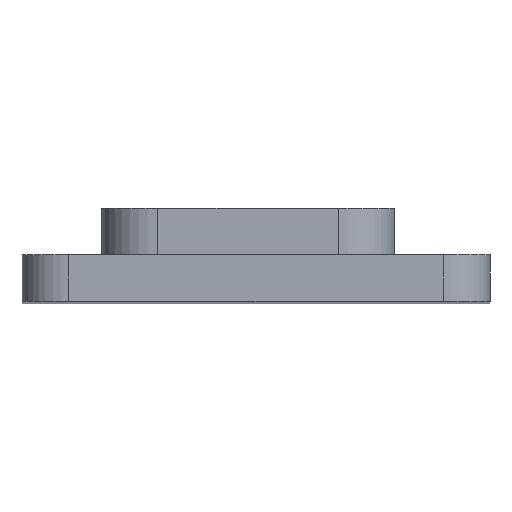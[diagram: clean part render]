
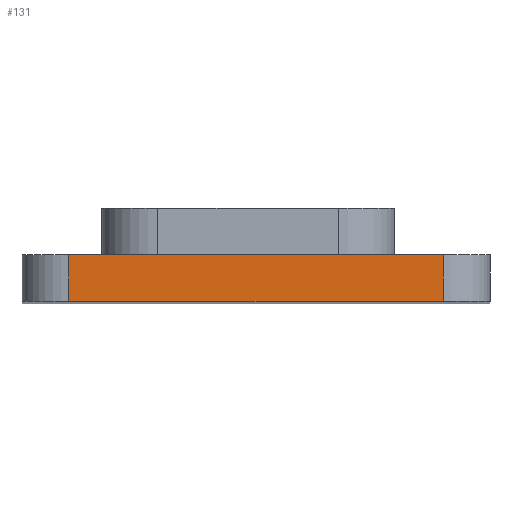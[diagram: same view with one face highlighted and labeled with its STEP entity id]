
A CAD part, top view. The second image highlights one B-rep face of the part: STEP entity #131.
In plain terms, the highlighted planar face has unit normal (0, 0, 1).
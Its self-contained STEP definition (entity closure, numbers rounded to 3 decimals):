
#29 = CARTESIAN_POINT ( 'NONE',  ( 20., 5., 75. ) ) ;
#56 = LINE ( 'NONE', #1261, #1043 ) ;
#75 = LINE ( 'NONE', #1373, #202 ) ;
#131 = ADVANCED_FACE ( 'NONE', ( #1206 ), #354, .F. ) ;
#140 = CARTESIAN_POINT ( 'NONE',  ( -20., 5., 75. ) ) ;
#150 = CARTESIAN_POINT ( 'NONE',  ( -20., 5., 75. ) ) ;
#163 = DIRECTION ( 'NONE',  ( 0., -1., 0. ) ) ;
#192 = CARTESIAN_POINT ( 'NONE',  ( 20., 0., 75. ) ) ;
#202 = VECTOR ( 'NONE', #163, 1000. ) ;
#205 = EDGE_CURVE ( 'NONE', #879, #1249, #56, .T. ) ;
#239 = DIRECTION ( 'NONE',  ( 0., 0., -1. ) ) ;
#350 = LINE ( 'NONE', #29, #771 ) ;
#354 = PLANE ( 'NONE',  #1020 ) ;
#419 = ORIENTED_EDGE ( 'NONE', *, *, #1398, .F. ) ;
#420 = DIRECTION ( 'NONE',  ( 1., 0., 0. ) ) ;
#427 = ORIENTED_EDGE ( 'NONE', *, *, #205, .T. ) ;
#458 = ORIENTED_EDGE ( 'NONE', *, *, #826, .F. ) ;
#495 = VERTEX_POINT ( 'NONE', #150 ) ;
#741 = VERTEX_POINT ( 'NONE', #1212 ) ;
#771 = VECTOR ( 'NONE', #1230, 1000. ) ;
#809 = DIRECTION ( 'NONE',  ( 1., 0., 0. ) ) ;
#818 = EDGE_LOOP ( 'NONE', ( #427, #419, #458, #1171 ) ) ;
#826 = EDGE_CURVE ( 'NONE', #495, #741, #1397, .T. ) ;
#861 = CARTESIAN_POINT ( 'NONE',  ( -20., 5., 75. ) ) ;
#879 = VERTEX_POINT ( 'NONE', #1349 ) ;
#885 = DIRECTION ( 'NONE',  ( -1., 0., 0. ) ) ;
#956 = VECTOR ( 'NONE', #420, 1000. ) ;
#1020 = AXIS2_PLACEMENT_3D ( 'NONE', #140, #239, #885 ) ;
#1043 = VECTOR ( 'NONE', #809, 1000. ) ;
#1096 = EDGE_CURVE ( 'NONE', #495, #879, #75, .T. ) ;
#1171 = ORIENTED_EDGE ( 'NONE', *, *, #1096, .T. ) ;
#1206 = FACE_OUTER_BOUND ( 'NONE', #818, .T. ) ;
#1212 = CARTESIAN_POINT ( 'NONE',  ( 20., 5., 75. ) ) ;
#1230 = DIRECTION ( 'NONE',  ( 0., -1., 0. ) ) ;
#1249 = VERTEX_POINT ( 'NONE', #192 ) ;
#1261 = CARTESIAN_POINT ( 'NONE',  ( -20., 0., 75. ) ) ;
#1349 = CARTESIAN_POINT ( 'NONE',  ( -20., 0., 75. ) ) ;
#1373 = CARTESIAN_POINT ( 'NONE',  ( -20., 5., 75. ) ) ;
#1397 = LINE ( 'NONE', #861, #956 ) ;
#1398 = EDGE_CURVE ( 'NONE', #741, #1249, #350, .T. ) ;
